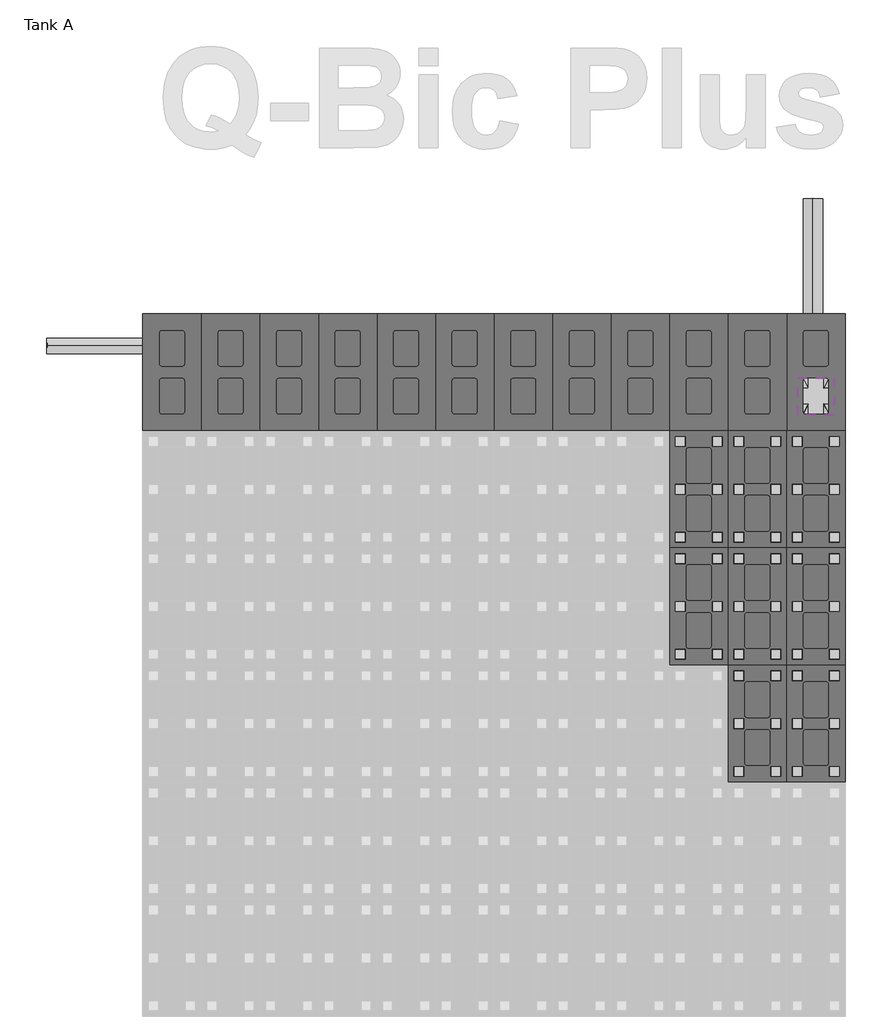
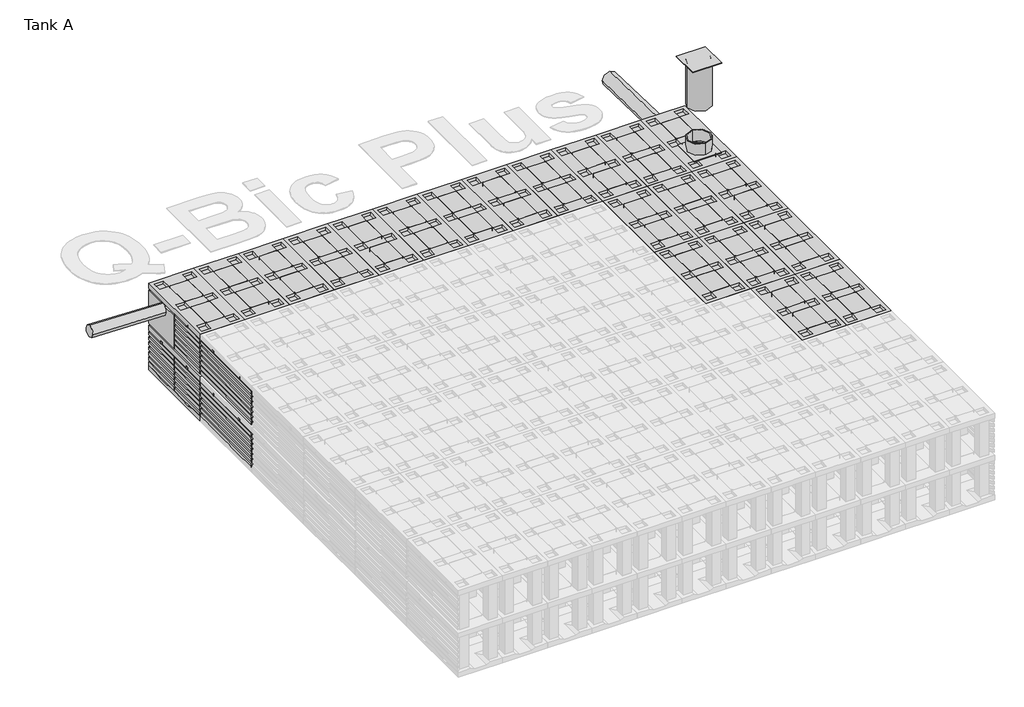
# One storey, part 4 of 6: 89 unitary equipment elements, 2 pipe fittings, 2 pipe segments.
"""IFC4 building model written with IfcOpenShell, lengths in millimetres."""

from ifc_helpers import new_model, si_unit, point, frame, frame_2d, origin, place, context, project, spatial, circle_curve, trimmed, segment, composite_curve, outline, extrude, transform, mapped, element, save
from components import sx315_telescopic_cover_with_d400_grating_073f188a, std_29941be0, closed_bottom_plate_7d425a97, std_f31acf44, std_0451be0c, std_7f29cd48, std_fc4b4af1, std_2a40640f, std_d7962c01

model = new_model("IFC4")

# Units and contexts
model_context = context("Model", 3, world=origin())
ifc_project = project(units=[si_unit("LENGTHUNIT", "METRE", prefix="MILLI")], contexts=[model_context])

# Site, building, storey
site = spatial("IfcSite", under=ifc_project)
building = spatial("IfcBuilding", under=site)
storey = spatial("IfcBuildingStorey", under=building, Name="Tank A", Elevation=-2300.0)

# Pipe fittings
placement = place(None, origin())
sx315_telescopic_cover_with_d400_grating_shape = sx315_telescopic_cover_with_d400_grating_073f188a(model_context)
element("IfcPipeFitting", 1, ObjectType="Z_PIF_UN_Q-Bic_Plus_Telescopic_Square_Cover_Wavin_(nested) : SX315 Telescopic cover with D400 Grating", at=placement, inside=storey, context=model_context, shape_type="MappedRepresentation", body=[
    mapped(sx315_telescopic_cover_with_d400_grating_shape, transform((9386.051096, 9115.7779398, 200.0), x_axis=(-1.0000000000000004, 0.0, 0.0), y_axis=(0.0, -1.0, 0.0), z_axis=(0.0, 0.0, 1.0000000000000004))),
])
std_shape = std_29941be0(model_context)
element("IfcPipeFitting", 2, ObjectType="Z_ME_UN_Q-Bic_Plus_Spigot_Plate_315_Wavin_(nested) : std", at=placement, inside=storey, context=model_context, shape_type="MappedRepresentation", body=[
    mapped(std_shape, transform((9566.051096, 9115.7779398, -1070.0), x_axis=(0.0, -1.0, 0.0), y_axis=(0.0, 0.0, 1.0000000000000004), z_axis=(-1.0000000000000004, 0.0, 0.0))),
])

# Pipe segments
element("IfcPipeSegment", 3, ObjectType="Generic PVC", at=placement, inside=storey, context=model_context, shape_type="SweptSolid", body=[
    extrude(outline(composite_curve([segment(trimmed(circle_curve(frame_2d((0.0, -100.0)), 100.0), [point((100.0, -100.0))], [point((0.0, -199.9999999))], False, "CARTESIAN"), True, "CONTINUOUS"), segment(trimmed(circle_curve(frame_2d((0.0, -100.0)), 100.0), [point((0.0, -199.9999999))], [point((-100.0, -100.0))], False, "CARTESIAN"), True, "CONTINUOUS"), segment(trimmed(circle_curve(frame_2d((0.0, -100.0)), 100.0), [point((-100.0, -100.0))], [point((0.0, 0.0))], False, "CARTESIAN"), True, "CONTINUOUS"), segment(trimmed(circle_curve(frame_2d((0.0, -100.0)), 100.0), [point((0.0, 0.0))], [point((100.0, -100.0))], False, "CARTESIAN"), True, "CONTINUOUS")], self_intersect=False)), frame((9356.051096, 11141.1754725, -1184.0272346), z_axis=(0.0, -0.9997276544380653, 0.023337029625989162), x_axis=(1.0, 0.0, 0.0)), (0.0, 0.0, 1.0), 1178.3847576),
])
element("IfcPipeSegment", 4, ObjectType="Generic PVC", at=placement, inside=storey, context=model_context, shape_type="SweptSolid", body=[
    extrude(outline(composite_curve([segment(trimmed(circle_curve(frame_2d((0.0, 80.0)), 80.0), [point((-0.1494468, 159.9998604))], [point((79.9998604, 80.1494468))], False, "CARTESIAN"), True, "CONTINUOUS"), segment(trimmed(circle_curve(frame_2d((0.0, 80.0)), 80.0), [point((79.9998604, 80.1494468))], [point((0.1494468, 0.0001395))], False, "CARTESIAN"), True, "CONTINUOUS"), segment(trimmed(circle_curve(frame_2d((0.0, 80.0)), 80.0), [point((0.1494468, 0.0001395))], [point((-79.9998605, 79.8505531))], False, "CARTESIAN"), True, "CONTINUOUS"), segment(trimmed(circle_curve(frame_2d((0.0, 80.0)), 80.0), [point((-79.9998605, 79.8505531))], [point((-0.1494468, 159.9998604))], False, "CARTESIAN"), True, "CONTINUOUS")], self_intersect=False)), frame((2486.051096, 9550.7780793, -1236.6493773), z_axis=(-0.9995352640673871, -5.691967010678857e-05, 0.030483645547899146), x_axis=(0.03048369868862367, -0.0018663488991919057, 0.9995335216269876)), (0.0, 0.0, 1.0), 984.1342615),
])

# Unitary equipment
closed_bottom_plate_shape = closed_bottom_plate_7d425a97(model_context)
element("IfcUnitaryEquipment", 5, ObjectType="Z_ME_UN_Q-Bic_Plus_Bottom_Plate_Wavin_(nested) : Open bottom plate", at=placement, inside=storey, context=model_context, shape_type="MappedRepresentation", body=[
    mapped(closed_bottom_plate_shape, transform((2486.051096, 9960.7779398, -2230.0), x_axis=(0.0, -1.0000000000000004, 0.0), y_axis=(1.0000000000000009, 0.0, 0.0), z_axis=(0.0, 0.0, 1.0000000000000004))),
])
element("IfcUnitaryEquipment", 6, ObjectType="Z_ME_UN_Q-Bic_Plus_Bottom_Plate_Wavin_(nested) : Open bottom plate", at=placement, inside=storey, context=model_context, shape_type="MappedRepresentation", body=[
    mapped(closed_bottom_plate_shape, transform((9686.051096, 5160.7779398, -2230.0), x_axis=(0.0, 1.0, 0.0), y_axis=(-1.0000000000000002, 0.0, 0.0), z_axis=(0.0, 0.0, 1.0000000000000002))),
])
element("IfcUnitaryEquipment", 7, ObjectType="Z_ME_UN_Q-Bic_Plus_Bottom_Plate_Wavin_(nested) : Open bottom plate", at=placement, inside=storey, context=model_context, shape_type="MappedRepresentation", body=[
    mapped(closed_bottom_plate_shape, transform((9686.051096, 6360.7779398, -2230.0), x_axis=(0.0, 1.0, 0.0), y_axis=(-1.0000000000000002, 0.0, 0.0), z_axis=(0.0, 0.0, 1.0000000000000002))),
])
element("IfcUnitaryEquipment", 8, ObjectType="Z_ME_UN_Q-Bic_Plus_Bottom_Plate_Wavin_(nested) : Open bottom plate", at=placement, inside=storey, context=model_context, shape_type="MappedRepresentation", body=[
    mapped(closed_bottom_plate_shape, transform((9686.051096, 7560.7779398, -2230.0), x_axis=(0.0, 1.0, 0.0), y_axis=(-1.0000000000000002, 0.0, 0.0), z_axis=(0.0, 0.0, 1.0000000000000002))),
])
element("IfcUnitaryEquipment", 9, ObjectType="Z_ME_UN_Q-Bic_Plus_Bottom_Plate_Wavin_(nested) : Open bottom plate", at=placement, inside=storey, context=model_context, shape_type="MappedRepresentation", body=[
    mapped(closed_bottom_plate_shape, transform((9086.051096, 5160.7779398, -2230.0), x_axis=(0.0, 1.0, 0.0), y_axis=(-1.0000000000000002, 0.0, 0.0), z_axis=(0.0, 0.0, 1.0000000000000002))),
])
element("IfcUnitaryEquipment", 10, ObjectType="Z_ME_UN_Q-Bic_Plus_Bottom_Plate_Wavin_(nested) : Open bottom plate", at=placement, inside=storey, context=model_context, shape_type="MappedRepresentation", body=[
    mapped(closed_bottom_plate_shape, transform((9086.051096, 6360.7779398, -2230.0), x_axis=(0.0, 1.0, 0.0), y_axis=(-1.0000000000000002, 0.0, 0.0), z_axis=(0.0, 0.0, 1.0000000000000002))),
])
element("IfcUnitaryEquipment", 11, ObjectType="Z_ME_UN_Q-Bic_Plus_Bottom_Plate_Wavin_(nested) : Open bottom plate", at=placement, inside=storey, context=model_context, shape_type="MappedRepresentation", body=[
    mapped(closed_bottom_plate_shape, transform((9086.051096, 7560.7779398, -2230.0), x_axis=(0.0, 1.0, 0.0), y_axis=(-1.0000000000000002, 0.0, 0.0), z_axis=(0.0, 0.0, 1.0000000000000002))),
])
element("IfcUnitaryEquipment", 12, ObjectType="Z_ME_UN_Q-Bic_Plus_Bottom_Plate_Wavin_(nested) : Open bottom plate", at=placement, inside=storey, context=model_context, shape_type="MappedRepresentation", body=[
    mapped(closed_bottom_plate_shape, transform((8486.051096, 5160.7779398, -2230.0), x_axis=(0.0, 1.0, 0.0), y_axis=(-1.0000000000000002, 0.0, 0.0), z_axis=(0.0, 0.0, 1.0000000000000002))),
])
element("IfcUnitaryEquipment", 13, ObjectType="Z_ME_UN_Q-Bic_Plus_Bottom_Plate_Wavin_(nested) : Open bottom plate", at=placement, inside=storey, context=model_context, shape_type="MappedRepresentation", body=[
    mapped(closed_bottom_plate_shape, transform((8486.051096, 6360.7779398, -2230.0), x_axis=(0.0, 1.0, 0.0), y_axis=(-1.0000000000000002, 0.0, 0.0), z_axis=(0.0, 0.0, 1.0000000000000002))),
])
element("IfcUnitaryEquipment", 14, ObjectType="Z_ME_UN_Q-Bic_Plus_Bottom_Plate_Wavin_(nested) : Open bottom plate", at=placement, inside=storey, context=model_context, shape_type="MappedRepresentation", body=[
    mapped(closed_bottom_plate_shape, transform((8486.051096, 7560.7779398, -2230.0), x_axis=(0.0, 1.0, 0.0), y_axis=(-1.0000000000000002, 0.0, 0.0), z_axis=(0.0, 0.0, 1.0000000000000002))),
])
element("IfcUnitaryEquipment", 15, ObjectType="Z_ME_UN_Q-Bic_Plus_Bottom_Plate_Wavin_(nested) : Open bottom plate", at=placement, inside=storey, context=model_context, shape_type="MappedRepresentation", body=[
    mapped(closed_bottom_plate_shape, transform((3086.051096, 9960.7779398, -2230.0), x_axis=(0.0, -1.0, 0.0), y_axis=(1.0000000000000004, 0.0, 0.0), z_axis=(0.0, 0.0, 1.0000000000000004))),
])
element("IfcUnitaryEquipment", 16, ObjectType="Z_ME_UN_Q-Bic_Plus_Bottom_Plate_Wavin_(nested) : Open bottom plate", at=placement, inside=storey, context=model_context, shape_type="MappedRepresentation", body=[
    mapped(closed_bottom_plate_shape, transform((3686.051096, 9960.7779398, -2230.0), x_axis=(0.0, -1.0, 0.0), y_axis=(1.0000000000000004, 0.0, 0.0), z_axis=(0.0, 0.0, 1.0000000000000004))),
])
element("IfcUnitaryEquipment", 17, ObjectType="Z_ME_UN_Q-Bic_Plus_Bottom_Plate_Wavin_(nested) : Open bottom plate", at=placement, inside=storey, context=model_context, shape_type="MappedRepresentation", body=[
    mapped(closed_bottom_plate_shape, transform((4286.051096, 9960.7779398, -2230.0), x_axis=(0.0, -1.0, 0.0), y_axis=(1.0000000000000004, 0.0, 0.0), z_axis=(0.0, 0.0, 1.0000000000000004))),
])
element("IfcUnitaryEquipment", 18, ObjectType="Z_ME_UN_Q-Bic_Plus_Bottom_Plate_Wavin_(nested) : Open bottom plate", at=placement, inside=storey, context=model_context, shape_type="MappedRepresentation", body=[
    mapped(closed_bottom_plate_shape, transform((4886.051096, 9960.7779398, -2230.0), x_axis=(0.0, -1.0, 0.0), y_axis=(1.0000000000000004, 0.0, 0.0), z_axis=(0.0, 0.0, 1.0000000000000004))),
])
element("IfcUnitaryEquipment", 19, ObjectType="Z_ME_UN_Q-Bic_Plus_Bottom_Plate_Wavin_(nested) : Open bottom plate", at=placement, inside=storey, context=model_context, shape_type="MappedRepresentation", body=[
    mapped(closed_bottom_plate_shape, transform((5486.051096, 9960.7779398, -2230.0), x_axis=(0.0, -1.0, 0.0), y_axis=(1.0000000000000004, 0.0, 0.0), z_axis=(0.0, 0.0, 1.0000000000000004))),
])
element("IfcUnitaryEquipment", 20, ObjectType="Z_ME_UN_Q-Bic_Plus_Bottom_Plate_Wavin_(nested) : Open bottom plate", at=placement, inside=storey, context=model_context, shape_type="MappedRepresentation", body=[
    mapped(closed_bottom_plate_shape, transform((6086.051096, 9960.7779398, -2230.0), x_axis=(0.0, -1.0, 0.0), y_axis=(1.0000000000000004, 0.0, 0.0), z_axis=(0.0, 0.0, 1.0000000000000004))),
])
element("IfcUnitaryEquipment", 21, ObjectType="Z_ME_UN_Q-Bic_Plus_Bottom_Plate_Wavin_(nested) : Open bottom plate", at=placement, inside=storey, context=model_context, shape_type="MappedRepresentation", body=[
    mapped(closed_bottom_plate_shape, transform((6686.051096, 9960.7779398, -2230.0), x_axis=(0.0, -1.0, 0.0), y_axis=(1.0000000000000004, 0.0, 0.0), z_axis=(0.0, 0.0, 1.0000000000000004))),
])
element("IfcUnitaryEquipment", 22, ObjectType="Z_ME_UN_Q-Bic_Plus_Bottom_Plate_Wavin_(nested) : Open bottom plate", at=placement, inside=storey, context=model_context, shape_type="MappedRepresentation", body=[
    mapped(closed_bottom_plate_shape, transform((7286.051096, 9960.7779398, -2230.0), x_axis=(0.0, -1.0, 0.0), y_axis=(1.0000000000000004, 0.0, 0.0), z_axis=(0.0, 0.0, 1.0000000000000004))),
])
element("IfcUnitaryEquipment", 23, ObjectType="Z_ME_UN_Q-Bic_Plus_Bottom_Plate_Wavin_(nested) : Open bottom plate", at=placement, inside=storey, context=model_context, shape_type="MappedRepresentation", body=[
    mapped(closed_bottom_plate_shape, transform((7886.051096, 9960.7779398, -2230.0), x_axis=(0.0, -1.0, 0.0), y_axis=(1.0000000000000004, 0.0, 0.0), z_axis=(0.0, 0.0, 1.0000000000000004))),
])
element("IfcUnitaryEquipment", 24, ObjectType="Z_ME_UN_Q-Bic_Plus_Bottom_Plate_Wavin_(nested) : Open bottom plate", at=placement, inside=storey, context=model_context, shape_type="MappedRepresentation", body=[
    mapped(closed_bottom_plate_shape, transform((8486.051096, 9960.7779398, -2230.0), x_axis=(0.0, -1.0, 0.0), y_axis=(1.0000000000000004, 0.0, 0.0), z_axis=(0.0, 0.0, 1.0000000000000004))),
])
element("IfcUnitaryEquipment", 25, ObjectType="Z_ME_UN_Q-Bic_Plus_Bottom_Plate_Wavin_(nested) : Open bottom plate", at=placement, inside=storey, context=model_context, shape_type="MappedRepresentation", body=[
    mapped(closed_bottom_plate_shape, transform((9086.051096, 9960.7779398, -2230.0), x_axis=(0.0, -1.0, 0.0), y_axis=(1.0000000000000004, 0.0, 0.0), z_axis=(0.0, 0.0, 1.0000000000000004))),
])
std_2_shape = std_f31acf44(model_context)
element("IfcUnitaryEquipment", 26, ObjectType="Z_ME_UN_Q-Bic_Plus_Lateral_Side_Plate_Wavin_(nested) : std", at=placement, inside=storey, context=model_context, shape_type="MappedRepresentation", body=[
    mapped(std_2_shape, transform((6086.051096, 9960.7779398, -2330.0), x_axis=(-1.0000000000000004, 0.0, 0.0), y_axis=(0.0, -1.0000000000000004, 0.0), z_axis=(0.0, 0.0, 1.0))),
])
element("IfcUnitaryEquipment", 27, ObjectType="Z_ME_UN_Q-Bic_Plus_Lateral_Side_Plate_Wavin_(nested) : std", at=placement, inside=storey, context=model_context, shape_type="MappedRepresentation", body=[
    mapped(std_2_shape, transform((6086.051096, 9960.7779398, -1730.0), x_axis=(-1.0000000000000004, 0.0, 0.0), y_axis=(0.0, -1.0000000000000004, 0.0), z_axis=(0.0, 0.0, 1.0))),
])
element("IfcUnitaryEquipment", 28, ObjectType="Z_ME_UN_Q-Bic_Plus_Lateral_Side_Plate_Wavin_(nested) : std", at=placement, inside=storey, context=model_context, shape_type="MappedRepresentation", body=[
    mapped(std_2_shape, transform((7286.051096, 9960.7779398, -2330.0), x_axis=(-1.0000000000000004, 0.0, 0.0), y_axis=(0.0, -1.0000000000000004, 0.0), z_axis=(0.0, 0.0, 1.0))),
])
element("IfcUnitaryEquipment", 29, ObjectType="Z_ME_UN_Q-Bic_Plus_Lateral_Side_Plate_Wavin_(nested) : std", at=placement, inside=storey, context=model_context, shape_type="MappedRepresentation", body=[
    mapped(std_2_shape, transform((7286.051096, 9960.7779398, -1730.0), x_axis=(-1.0000000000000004, 0.0, 0.0), y_axis=(0.0, -1.0000000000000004, 0.0), z_axis=(0.0, 0.0, 1.0))),
])
element("IfcUnitaryEquipment", 30, ObjectType="Z_ME_UN_Q-Bic_Plus_Lateral_Side_Plate_Wavin_(nested) : std", at=placement, inside=storey, context=model_context, shape_type="MappedRepresentation", body=[
    mapped(std_2_shape, transform((8486.051096, 9960.7779398, -2330.0), x_axis=(-1.0000000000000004, 0.0, 0.0), y_axis=(0.0, -1.0000000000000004, 0.0), z_axis=(0.0, 0.0, 1.0))),
])
element("IfcUnitaryEquipment", 31, ObjectType="Z_ME_UN_Q-Bic_Plus_Lateral_Side_Plate_Wavin_(nested) : std", at=placement, inside=storey, context=model_context, shape_type="MappedRepresentation", body=[
    mapped(std_2_shape, transform((8486.051096, 9960.7779398, -1730.0), x_axis=(-1.0000000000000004, 0.0, 0.0), y_axis=(0.0, -1.0000000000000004, 0.0), z_axis=(0.0, 0.0, 1.0))),
])
element("IfcUnitaryEquipment", 32, ObjectType="Z_ME_UN_Q-Bic_Plus_Lateral_Side_Plate_Wavin_(nested) : std", at=placement, inside=storey, context=model_context, shape_type="MappedRepresentation", body=[
    mapped(std_2_shape, transform((9686.051096, 6360.7779398, -2330.0), x_axis=(0.0, 1.0000000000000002, 0.0), y_axis=(-1.0000000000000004, 0.0, 0.0), z_axis=(0.0, 0.0, 1.0000000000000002))),
])
element("IfcUnitaryEquipment", 33, ObjectType="Z_ME_UN_Q-Bic_Plus_Lateral_Side_Plate_Wavin_(nested) : std", at=placement, inside=storey, context=model_context, shape_type="MappedRepresentation", body=[
    mapped(std_2_shape, transform((9686.051096, 6360.7779398, -1730.0), x_axis=(0.0, 1.0000000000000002, 0.0), y_axis=(-1.0000000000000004, 0.0, 0.0), z_axis=(0.0, 0.0, 1.0000000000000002))),
])
element("IfcUnitaryEquipment", 34, ObjectType="Z_ME_UN_Q-Bic_Plus_Lateral_Side_Plate_Wavin_(nested) : std", at=placement, inside=storey, context=model_context, shape_type="MappedRepresentation", body=[
    mapped(std_2_shape, transform((9686.051096, 5160.7779398, -2330.0), x_axis=(0.0, 1.0000000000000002, 0.0), y_axis=(-1.0000000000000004, 0.0, 0.0), z_axis=(0.0, 0.0, 1.0000000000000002))),
])
element("IfcUnitaryEquipment", 35, ObjectType="Z_ME_UN_Q-Bic_Plus_Lateral_Side_Plate_Wavin_(nested) : std", at=placement, inside=storey, context=model_context, shape_type="MappedRepresentation", body=[
    mapped(std_2_shape, transform((9686.051096, 5160.7779398, -1730.0), x_axis=(0.0, 1.0000000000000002, 0.0), y_axis=(-1.0000000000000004, 0.0, 0.0), z_axis=(0.0, 0.0, 1.0000000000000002))),
])
element("IfcUnitaryEquipment", 36, ObjectType="Z_ME_UN_Q-Bic_Plus_Lateral_Side_Plate_Wavin_(nested) : std", at=placement, inside=storey, context=model_context, shape_type="MappedRepresentation", body=[
    mapped(std_2_shape, transform((2486.051096, 8760.7779398, -2330.0), x_axis=(0.0, -1.0000000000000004, 0.0), y_axis=(1.0000000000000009, 0.0, 0.0), z_axis=(0.0, 0.0, 1.0000000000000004))),
])
element("IfcUnitaryEquipment", 37, ObjectType="Z_ME_UN_Q-Bic_Plus_Lateral_Side_Plate_Wavin_(nested) : std", at=placement, inside=storey, context=model_context, shape_type="MappedRepresentation", body=[
    mapped(std_2_shape, transform((2486.051096, 8760.7779398, -1730.0), x_axis=(0.0, -1.0000000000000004, 0.0), y_axis=(1.0000000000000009, 0.0, 0.0), z_axis=(0.0, 0.0, 1.0000000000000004))),
])
element("IfcUnitaryEquipment", 38, ObjectType="Z_ME_UN_Q-Bic_Plus_Lateral_Side_Plate_Wavin_(nested) : std", at=placement, inside=storey, context=model_context, shape_type="MappedRepresentation", body=[
    mapped(std_2_shape, transform((9686.051096, 7560.7779398, -2330.0), x_axis=(0.0, 1.0000000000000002, 0.0), y_axis=(-1.0000000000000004, 0.0, 0.0), z_axis=(0.0, 0.0, 1.0000000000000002))),
])
element("IfcUnitaryEquipment", 39, ObjectType="Z_ME_UN_Q-Bic_Plus_Lateral_Side_Plate_Wavin_(nested) : std", at=placement, inside=storey, context=model_context, shape_type="MappedRepresentation", body=[
    mapped(std_2_shape, transform((9686.051096, 7560.7779398, -1730.0), x_axis=(0.0, 1.0000000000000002, 0.0), y_axis=(-1.0000000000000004, 0.0, 0.0), z_axis=(0.0, 0.0, 1.0000000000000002))),
])
element("IfcUnitaryEquipment", 40, ObjectType="Z_ME_UN_Q-Bic_Plus_Lateral_Side_Plate_Wavin_(nested) : std", at=placement, inside=storey, context=model_context, shape_type="MappedRepresentation", body=[
    mapped(std_2_shape, transform((9686.051096, 8760.7779398, -2330.0), x_axis=(0.0, 1.0000000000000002, 0.0), y_axis=(-1.0000000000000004, 0.0, 0.0), z_axis=(0.0, 0.0, 1.0000000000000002))),
])
element("IfcUnitaryEquipment", 41, ObjectType="Z_ME_UN_Q-Bic_Plus_Lateral_Side_Plate_Wavin_(nested) : std", at=placement, inside=storey, context=model_context, shape_type="MappedRepresentation", body=[
    mapped(std_2_shape, transform((9686.051096, 8760.7779398, -1730.0), x_axis=(0.0, 1.0000000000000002, 0.0), y_axis=(-1.0000000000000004, 0.0, 0.0), z_axis=(0.0, 0.0, 1.0000000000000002))),
])
element("IfcUnitaryEquipment", 42, ObjectType="Z_ME_UN_Q-Bic_Plus_Lateral_Side_Plate_Wavin_(nested) : std", at=placement, inside=storey, context=model_context, shape_type="MappedRepresentation", body=[
    mapped(std_2_shape, transform((4886.051096, 9960.7779398, -2330.0), x_axis=(-1.0000000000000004, 0.0, 0.0), y_axis=(0.0, -1.0000000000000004, 0.0), z_axis=(0.0, 0.0, 1.0))),
])
element("IfcUnitaryEquipment", 43, ObjectType="Z_ME_UN_Q-Bic_Plus_Lateral_Side_Plate_Wavin_(nested) : std", at=placement, inside=storey, context=model_context, shape_type="MappedRepresentation", body=[
    mapped(std_2_shape, transform((4886.051096, 9960.7779398, -1730.0), x_axis=(-1.0000000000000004, 0.0, 0.0), y_axis=(0.0, -1.0000000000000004, 0.0), z_axis=(0.0, 0.0, 1.0))),
])
element("IfcUnitaryEquipment", 44, ObjectType="Z_ME_UN_Q-Bic_Plus_Lateral_Side_Plate_Wavin_(nested) : std", at=placement, inside=storey, context=model_context, shape_type="MappedRepresentation", body=[
    mapped(std_2_shape, transform((3686.051096, 9960.7779398, -2330.0), x_axis=(-1.0000000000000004, 0.0, 0.0), y_axis=(0.0, -1.0000000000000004, 0.0), z_axis=(0.0, 0.0, 1.0))),
])
element("IfcUnitaryEquipment", 45, ObjectType="Z_ME_UN_Q-Bic_Plus_Lateral_Side_Plate_Wavin_(nested) : std", at=placement, inside=storey, context=model_context, shape_type="MappedRepresentation", body=[
    mapped(std_2_shape, transform((3686.051096, 9960.7779398, -1730.0), x_axis=(-1.0000000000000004, 0.0, 0.0), y_axis=(0.0, -1.0000000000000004, 0.0), z_axis=(0.0, 0.0, 1.0))),
])
std_3_shape = std_0451be0c(model_context)
element("IfcUnitaryEquipment", 46, ObjectType="Z_ME_UN_Q-Bic_Plus_Lateral_Side_Plate_Wavin_(nested) : std", at=placement, inside=storey, context=model_context, shape_type="MappedRepresentation", body=[
    mapped(std_3_shape, transform((9686.051096, 9960.7779398, -2330.0), x_axis=(-1.0000000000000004, 0.0, 0.0), y_axis=(0.0, -1.0000000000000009, 0.0), z_axis=(0.0, 0.0, 1.0000000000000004))),
])
element("IfcUnitaryEquipment", 47, ObjectType="Z_ME_UN_Q-Bic_Plus_Lateral_Side_Plate_Wavin_(nested) : std", at=placement, inside=storey, context=model_context, shape_type="MappedRepresentation", body=[
    mapped(std_3_shape, transform((2486.051096, 9960.7779398, -2330.0), x_axis=(0.0, -1.0000000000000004, 0.0), y_axis=(1.0000000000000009, 0.0, 0.0), z_axis=(0.0, 0.0, 1.0000000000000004))),
])
element("IfcUnitaryEquipment", 48, ObjectType="Z_ME_UN_Q-Bic_Plus_Lateral_Side_Plate_Wavin_(nested) : std", at=placement, inside=storey, context=model_context, shape_type="MappedRepresentation", body=[
    mapped(std_3_shape, transform((2486.051096, 9368.7779398, -1730.0), x_axis=(0.0, -1.0000000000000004, 0.0), y_axis=(1.0000000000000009, 0.0, 0.0), z_axis=(0.0, 0.0, 1.0000000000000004))),
])
element("IfcUnitaryEquipment", 49, ObjectType="Z_ME_UN_Q-Bic_Plus_Lateral_Side_Plate_Wavin_(nested) : std", at=placement, inside=storey, context=model_context, shape_type="MappedRepresentation", body=[
    mapped(std_3_shape, transform((2486.051096, 9368.7779398, -2330.0), x_axis=(0.0, -1.0000000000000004, 0.0), y_axis=(1.0000000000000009, 0.0, 0.0), z_axis=(0.0, 0.0, 1.0000000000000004))),
])
element("IfcUnitaryEquipment", 50, ObjectType="Z_ME_UN_Q-Bic_Plus_Lateral_Side_Plate_Wavin_(nested) : std", at=placement, inside=storey, context=model_context, shape_type="MappedRepresentation", body=[
    mapped(std_3_shape, transform((9094.051096, 9960.7779398, -1730.0), x_axis=(-1.0000000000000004, 0.0, 0.0), y_axis=(0.0, -1.0000000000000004, 0.0), z_axis=(0.0, 0.0, 1.0))),
])
element("IfcUnitaryEquipment", 51, ObjectType="Z_ME_UN_Q-Bic_Plus_Lateral_Side_Plate_Wavin_(nested) : std", at=placement, inside=storey, context=model_context, shape_type="MappedRepresentation", body=[
    mapped(std_3_shape, transform((9094.051096, 9960.7779398, -2330.0), x_axis=(-1.0000000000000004, 0.0, 0.0), y_axis=(0.0, -1.0000000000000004, 0.0), z_axis=(0.0, 0.0, 1.0))),
])
std_4_shape = std_7f29cd48(model_context)
element("IfcUnitaryEquipment", 52, ObjectType="Z_ME_UN_Q-Bic Plus_Infiltration_Unit_Wavin_(nested) : std", at=placement, inside=storey, context=model_context, shape_type="MappedRepresentation", body=[
    mapped(std_4_shape, transform((9086.051096, 9960.7779398, -1670.0), x_axis=(0.0, -1.0, 0.0), y_axis=(1.0000000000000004, 0.0, 0.0), z_axis=(0.0, 0.0, 1.0000000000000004))),
])
element("IfcUnitaryEquipment", 53, ObjectType="Z_ME_UN_Q-Bic Plus_Infiltration_Unit_Wavin_(nested) : std", at=placement, inside=storey, context=model_context, shape_type="MappedRepresentation", body=[
    mapped(std_4_shape, transform((9086.051096, 9960.7779398, -2270.0), x_axis=(0.0, -1.0, 0.0), y_axis=(1.0000000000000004, 0.0, 0.0), z_axis=(0.0, 0.0, 1.0000000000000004))),
])
std_5_shape = std_fc4b4af1(model_context)
element("IfcUnitaryEquipment", 54, ObjectType="Z_ME_UN_Q-Bic_Plus_Connection_Plate_Wavin_(nested) : std", at=placement, inside=storey, context=model_context, shape_type="MappedRepresentation", body=[
    mapped(std_5_shape, transform((9686.051096, 9960.7779398, -1730.0), x_axis=(-1.0000000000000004, 0.0, 0.0), y_axis=(0.0, -1.0000000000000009, 0.0), z_axis=(0.0, 0.0, 1.0000000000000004))),
])
std_6_shape = std_2a40640f(model_context)
element("IfcUnitaryEquipment", 55, ObjectType="Z_ME_UN_Q-Bic_Plus_Connection_Plate_Wavin_(nested) : std", at=placement, inside=storey, context=model_context, shape_type="MappedRepresentation", body=[
    mapped(std_6_shape, transform((2486.051096, 9960.7779398, -1730.0), x_axis=(0.0, -1.0000000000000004, 0.0), y_axis=(1.0000000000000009, 0.0, 0.0), z_axis=(0.0, 0.0, 1.0000000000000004))),
])
std_7_shape = std_d7962c01(model_context)
element("IfcUnitaryEquipment", 56, ObjectType="Z_ME_UN_Q-Bic Plus_Infiltration_Unit_Wavin_(nested) : std", at=placement, inside=storey, context=model_context, shape_type="MappedRepresentation", body=[
    mapped(std_7_shape, transform((2486.051096, 9960.7779398, -1670.0), x_axis=(0.0, -1.0000000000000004, 0.0), y_axis=(1.0000000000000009, 0.0, 0.0), z_axis=(0.0, 0.0, 1.0000000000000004))),
])
element("IfcUnitaryEquipment", 57, ObjectType="Z_ME_UN_Q-Bic Plus_Infiltration_Unit_Wavin_(nested) : std", at=placement, inside=storey, context=model_context, shape_type="MappedRepresentation", body=[
    mapped(std_7_shape, transform((2486.051096, 9960.7779398, -2270.0), x_axis=(0.0, -1.0000000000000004, 0.0), y_axis=(1.0000000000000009, 0.0, 0.0), z_axis=(0.0, 0.0, 1.0000000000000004))),
])
element("IfcUnitaryEquipment", 58, ObjectType="Z_ME_UN_Q-Bic Plus_Infiltration_Unit_Wavin_(nested) : std", at=placement, inside=storey, context=model_context, shape_type="MappedRepresentation", body=[
    mapped(std_7_shape, transform((9686.051096, 5160.7779398, -1670.0), x_axis=(0.0, 1.0, 0.0), y_axis=(-1.0000000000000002, 0.0, 0.0), z_axis=(0.0, 0.0, 1.0000000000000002))),
])
element("IfcUnitaryEquipment", 59, ObjectType="Z_ME_UN_Q-Bic Plus_Infiltration_Unit_Wavin_(nested) : std", at=placement, inside=storey, context=model_context, shape_type="MappedRepresentation", body=[
    mapped(std_7_shape, transform((9686.051096, 5160.7779398, -2270.0), x_axis=(0.0, 1.0, 0.0), y_axis=(-1.0000000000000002, 0.0, 0.0), z_axis=(0.0, 0.0, 1.0000000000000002))),
])
element("IfcUnitaryEquipment", 60, ObjectType="Z_ME_UN_Q-Bic Plus_Infiltration_Unit_Wavin_(nested) : std", at=placement, inside=storey, context=model_context, shape_type="MappedRepresentation", body=[
    mapped(std_7_shape, transform((9686.051096, 6360.7779398, -1670.0), x_axis=(0.0, 1.0, 0.0), y_axis=(-1.0000000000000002, 0.0, 0.0), z_axis=(0.0, 0.0, 1.0000000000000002))),
])
element("IfcUnitaryEquipment", 61, ObjectType="Z_ME_UN_Q-Bic Plus_Infiltration_Unit_Wavin_(nested) : std", at=placement, inside=storey, context=model_context, shape_type="MappedRepresentation", body=[
    mapped(std_7_shape, transform((9686.051096, 6360.7779398, -2270.0), x_axis=(0.0, 1.0, 0.0), y_axis=(-1.0000000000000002, 0.0, 0.0), z_axis=(0.0, 0.0, 1.0000000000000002))),
])
element("IfcUnitaryEquipment", 62, ObjectType="Z_ME_UN_Q-Bic Plus_Infiltration_Unit_Wavin_(nested) : std", at=placement, inside=storey, context=model_context, shape_type="MappedRepresentation", body=[
    mapped(std_7_shape, transform((9686.051096, 7560.7779398, -1670.0), x_axis=(0.0, 1.0, 0.0), y_axis=(-1.0000000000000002, 0.0, 0.0), z_axis=(0.0, 0.0, 1.0000000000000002))),
])
element("IfcUnitaryEquipment", 63, ObjectType="Z_ME_UN_Q-Bic Plus_Infiltration_Unit_Wavin_(nested) : std", at=placement, inside=storey, context=model_context, shape_type="MappedRepresentation", body=[
    mapped(std_7_shape, transform((9686.051096, 7560.7779398, -2270.0), x_axis=(0.0, 1.0, 0.0), y_axis=(-1.0000000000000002, 0.0, 0.0), z_axis=(0.0, 0.0, 1.0000000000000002))),
])
element("IfcUnitaryEquipment", 64, ObjectType="Z_ME_UN_Q-Bic Plus_Infiltration_Unit_Wavin_(nested) : std", at=placement, inside=storey, context=model_context, shape_type="MappedRepresentation", body=[
    mapped(std_7_shape, transform((9086.051096, 5160.7779398, -1670.0), x_axis=(0.0, 1.0, 0.0), y_axis=(-1.0000000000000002, 0.0, 0.0), z_axis=(0.0, 0.0, 1.0000000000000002))),
])
element("IfcUnitaryEquipment", 65, ObjectType="Z_ME_UN_Q-Bic Plus_Infiltration_Unit_Wavin_(nested) : std", at=placement, inside=storey, context=model_context, shape_type="MappedRepresentation", body=[
    mapped(std_7_shape, transform((9086.051096, 5160.7779398, -2270.0), x_axis=(0.0, 1.0, 0.0), y_axis=(-1.0000000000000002, 0.0, 0.0), z_axis=(0.0, 0.0, 1.0000000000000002))),
])
element("IfcUnitaryEquipment", 66, ObjectType="Z_ME_UN_Q-Bic Plus_Infiltration_Unit_Wavin_(nested) : std", at=placement, inside=storey, context=model_context, shape_type="MappedRepresentation", body=[
    mapped(std_7_shape, transform((9086.051096, 6360.7779398, -1670.0), x_axis=(0.0, 1.0, 0.0), y_axis=(-1.0000000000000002, 0.0, 0.0), z_axis=(0.0, 0.0, 1.0000000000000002))),
])
element("IfcUnitaryEquipment", 67, ObjectType="Z_ME_UN_Q-Bic Plus_Infiltration_Unit_Wavin_(nested) : std", at=placement, inside=storey, context=model_context, shape_type="MappedRepresentation", body=[
    mapped(std_7_shape, transform((9086.051096, 6360.7779398, -2270.0), x_axis=(0.0, 1.0, 0.0), y_axis=(-1.0000000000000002, 0.0, 0.0), z_axis=(0.0, 0.0, 1.0000000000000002))),
])
element("IfcUnitaryEquipment", 68, ObjectType="Z_ME_UN_Q-Bic Plus_Infiltration_Unit_Wavin_(nested) : std", at=placement, inside=storey, context=model_context, shape_type="MappedRepresentation", body=[
    mapped(std_7_shape, transform((9086.051096, 7560.7779398, -1670.0), x_axis=(0.0, 1.0, 0.0), y_axis=(-1.0000000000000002, 0.0, 0.0), z_axis=(0.0, 0.0, 1.0000000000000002))),
])
element("IfcUnitaryEquipment", 69, ObjectType="Z_ME_UN_Q-Bic Plus_Infiltration_Unit_Wavin_(nested) : std", at=placement, inside=storey, context=model_context, shape_type="MappedRepresentation", body=[
    mapped(std_7_shape, transform((9086.051096, 7560.7779398, -2270.0), x_axis=(0.0, 1.0, 0.0), y_axis=(-1.0000000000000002, 0.0, 0.0), z_axis=(0.0, 0.0, 1.0000000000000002))),
])
element("IfcUnitaryEquipment", 70, ObjectType="Z_ME_UN_Q-Bic Plus_Infiltration_Unit_Wavin_(nested) : std", at=placement, inside=storey, context=model_context, shape_type="MappedRepresentation", body=[
    mapped(std_7_shape, transform((8486.051096, 6360.7779398, -1670.0), x_axis=(0.0, 1.0, 0.0), y_axis=(-1.0000000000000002, 0.0, 0.0), z_axis=(0.0, 0.0, 1.0000000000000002))),
])
element("IfcUnitaryEquipment", 71, ObjectType="Z_ME_UN_Q-Bic Plus_Infiltration_Unit_Wavin_(nested) : std", at=placement, inside=storey, context=model_context, shape_type="MappedRepresentation", body=[
    mapped(std_7_shape, transform((8486.051096, 6360.7779398, -2270.0), x_axis=(0.0, 1.0, 0.0), y_axis=(-1.0000000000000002, 0.0, 0.0), z_axis=(0.0, 0.0, 1.0000000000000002))),
])
element("IfcUnitaryEquipment", 72, ObjectType="Z_ME_UN_Q-Bic Plus_Infiltration_Unit_Wavin_(nested) : std", at=placement, inside=storey, context=model_context, shape_type="MappedRepresentation", body=[
    mapped(std_7_shape, transform((8486.051096, 7560.7779398, -1670.0), x_axis=(0.0, 1.0, 0.0), y_axis=(-1.0000000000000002, 0.0, 0.0), z_axis=(0.0, 0.0, 1.0000000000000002))),
])
element("IfcUnitaryEquipment", 73, ObjectType="Z_ME_UN_Q-Bic Plus_Infiltration_Unit_Wavin_(nested) : std", at=placement, inside=storey, context=model_context, shape_type="MappedRepresentation", body=[
    mapped(std_7_shape, transform((8486.051096, 7560.7779398, -2270.0), x_axis=(0.0, 1.0, 0.0), y_axis=(-1.0000000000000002, 0.0, 0.0), z_axis=(0.0, 0.0, 1.0000000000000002))),
])
element("IfcUnitaryEquipment", 74, ObjectType="Z_ME_UN_Q-Bic Plus_Infiltration_Unit_Wavin_(nested) : std", at=placement, inside=storey, context=model_context, shape_type="MappedRepresentation", body=[
    mapped(std_7_shape, transform((3086.051096, 9960.7779398, -1670.0), x_axis=(0.0, -1.0, 0.0), y_axis=(1.0000000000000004, 0.0, 0.0), z_axis=(0.0, 0.0, 1.0000000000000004))),
])
element("IfcUnitaryEquipment", 75, ObjectType="Z_ME_UN_Q-Bic Plus_Infiltration_Unit_Wavin_(nested) : std", at=placement, inside=storey, context=model_context, shape_type="MappedRepresentation", body=[
    mapped(std_7_shape, transform((3086.051096, 9960.7779398, -2270.0), x_axis=(0.0, -1.0, 0.0), y_axis=(1.0000000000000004, 0.0, 0.0), z_axis=(0.0, 0.0, 1.0000000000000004))),
])
element("IfcUnitaryEquipment", 76, ObjectType="Z_ME_UN_Q-Bic Plus_Infiltration_Unit_Wavin_(nested) : std", at=placement, inside=storey, context=model_context, shape_type="MappedRepresentation", body=[
    mapped(std_7_shape, transform((3686.051096, 9960.7779398, -1670.0), x_axis=(0.0, -1.0, 0.0), y_axis=(1.0000000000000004, 0.0, 0.0), z_axis=(0.0, 0.0, 1.0000000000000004))),
])
element("IfcUnitaryEquipment", 77, ObjectType="Z_ME_UN_Q-Bic Plus_Infiltration_Unit_Wavin_(nested) : std", at=placement, inside=storey, context=model_context, shape_type="MappedRepresentation", body=[
    mapped(std_7_shape, transform((3686.051096, 9960.7779398, -2270.0), x_axis=(0.0, -1.0, 0.0), y_axis=(1.0000000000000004, 0.0, 0.0), z_axis=(0.0, 0.0, 1.0000000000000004))),
])
element("IfcUnitaryEquipment", 78, ObjectType="Z_ME_UN_Q-Bic Plus_Infiltration_Unit_Wavin_(nested) : std", at=placement, inside=storey, context=model_context, shape_type="MappedRepresentation", body=[
    mapped(std_7_shape, transform((4286.051096, 9960.7779398, -1670.0), x_axis=(0.0, -1.0, 0.0), y_axis=(1.0000000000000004, 0.0, 0.0), z_axis=(0.0, 0.0, 1.0000000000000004))),
])
element("IfcUnitaryEquipment", 79, ObjectType="Z_ME_UN_Q-Bic Plus_Infiltration_Unit_Wavin_(nested) : std", at=placement, inside=storey, context=model_context, shape_type="MappedRepresentation", body=[
    mapped(std_7_shape, transform((4286.051096, 9960.7779398, -2270.0), x_axis=(0.0, -1.0, 0.0), y_axis=(1.0000000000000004, 0.0, 0.0), z_axis=(0.0, 0.0, 1.0000000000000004))),
])
element("IfcUnitaryEquipment", 80, ObjectType="Z_ME_UN_Q-Bic Plus_Infiltration_Unit_Wavin_(nested) : std", at=placement, inside=storey, context=model_context, shape_type="MappedRepresentation", body=[
    mapped(std_7_shape, transform((4886.051096, 9960.7779398, -1670.0), x_axis=(0.0, -1.0, 0.0), y_axis=(1.0000000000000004, 0.0, 0.0), z_axis=(0.0, 0.0, 1.0000000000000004))),
])
element("IfcUnitaryEquipment", 81, ObjectType="Z_ME_UN_Q-Bic Plus_Infiltration_Unit_Wavin_(nested) : std", at=placement, inside=storey, context=model_context, shape_type="MappedRepresentation", body=[
    mapped(std_7_shape, transform((4886.051096, 9960.7779398, -2270.0), x_axis=(0.0, -1.0, 0.0), y_axis=(1.0000000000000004, 0.0, 0.0), z_axis=(0.0, 0.0, 1.0000000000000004))),
])
element("IfcUnitaryEquipment", 82, ObjectType="Z_ME_UN_Q-Bic Plus_Infiltration_Unit_Wavin_(nested) : std", at=placement, inside=storey, context=model_context, shape_type="MappedRepresentation", body=[
    mapped(std_7_shape, transform((5486.051096, 9960.7779398, -1670.0), x_axis=(0.0, -1.0, 0.0), y_axis=(1.0000000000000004, 0.0, 0.0), z_axis=(0.0, 0.0, 1.0000000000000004))),
])
element("IfcUnitaryEquipment", 83, ObjectType="Z_ME_UN_Q-Bic Plus_Infiltration_Unit_Wavin_(nested) : std", at=placement, inside=storey, context=model_context, shape_type="MappedRepresentation", body=[
    mapped(std_7_shape, transform((5486.051096, 9960.7779398, -2270.0), x_axis=(0.0, -1.0, 0.0), y_axis=(1.0000000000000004, 0.0, 0.0), z_axis=(0.0, 0.0, 1.0000000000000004))),
])
element("IfcUnitaryEquipment", 84, ObjectType="Z_ME_UN_Q-Bic Plus_Infiltration_Unit_Wavin_(nested) : std", at=placement, inside=storey, context=model_context, shape_type="MappedRepresentation", body=[
    mapped(std_7_shape, transform((6086.051096, 9960.7779398, -1670.0), x_axis=(0.0, -1.0, 0.0), y_axis=(1.0000000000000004, 0.0, 0.0), z_axis=(0.0, 0.0, 1.0000000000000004))),
])
element("IfcUnitaryEquipment", 85, ObjectType="Z_ME_UN_Q-Bic Plus_Infiltration_Unit_Wavin_(nested) : std", at=placement, inside=storey, context=model_context, shape_type="MappedRepresentation", body=[
    mapped(std_7_shape, transform((6086.051096, 9960.7779398, -2270.0), x_axis=(0.0, -1.0, 0.0), y_axis=(1.0000000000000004, 0.0, 0.0), z_axis=(0.0, 0.0, 1.0000000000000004))),
])
element("IfcUnitaryEquipment", 86, ObjectType="Z_ME_UN_Q-Bic Plus_Infiltration_Unit_Wavin_(nested) : std", at=placement, inside=storey, context=model_context, shape_type="MappedRepresentation", body=[
    mapped(std_7_shape, transform((6686.051096, 9960.7779398, -1670.0), x_axis=(0.0, -1.0, 0.0), y_axis=(1.0000000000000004, 0.0, 0.0), z_axis=(0.0, 0.0, 1.0000000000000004))),
])
element("IfcUnitaryEquipment", 87, ObjectType="Z_ME_UN_Q-Bic Plus_Infiltration_Unit_Wavin_(nested) : std", at=placement, inside=storey, context=model_context, shape_type="MappedRepresentation", body=[
    mapped(std_7_shape, transform((6686.051096, 9960.7779398, -2270.0), x_axis=(0.0, -1.0, 0.0), y_axis=(1.0000000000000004, 0.0, 0.0), z_axis=(0.0, 0.0, 1.0000000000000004))),
])
element("IfcUnitaryEquipment", 88, ObjectType="Z_ME_UN_Q-Bic Plus_Infiltration_Unit_Wavin_(nested) : std", at=placement, inside=storey, context=model_context, shape_type="MappedRepresentation", body=[
    mapped(std_7_shape, transform((7286.051096, 9960.7779398, -1670.0), x_axis=(0.0, -1.0, 0.0), y_axis=(1.0000000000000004, 0.0, 0.0), z_axis=(0.0, 0.0, 1.0000000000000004))),
])
element("IfcUnitaryEquipment", 89, ObjectType="Z_ME_UN_Q-Bic Plus_Infiltration_Unit_Wavin_(nested) : std", at=placement, inside=storey, context=model_context, shape_type="MappedRepresentation", body=[
    mapped(std_7_shape, transform((7286.051096, 9960.7779398, -2270.0), x_axis=(0.0, -1.0, 0.0), y_axis=(1.0000000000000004, 0.0, 0.0), z_axis=(0.0, 0.0, 1.0000000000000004))),
])
element("IfcUnitaryEquipment", 90, ObjectType="Z_ME_UN_Q-Bic Plus_Infiltration_Unit_Wavin_(nested) : std", at=placement, inside=storey, context=model_context, shape_type="MappedRepresentation", body=[
    mapped(std_7_shape, transform((7886.051096, 9960.7779398, -1670.0), x_axis=(0.0, -1.0, 0.0), y_axis=(1.0000000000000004, 0.0, 0.0), z_axis=(0.0, 0.0, 1.0000000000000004))),
])
element("IfcUnitaryEquipment", 91, ObjectType="Z_ME_UN_Q-Bic Plus_Infiltration_Unit_Wavin_(nested) : std", at=placement, inside=storey, context=model_context, shape_type="MappedRepresentation", body=[
    mapped(std_7_shape, transform((7886.051096, 9960.7779398, -2270.0), x_axis=(0.0, -1.0, 0.0), y_axis=(1.0000000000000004, 0.0, 0.0), z_axis=(0.0, 0.0, 1.0000000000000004))),
])
element("IfcUnitaryEquipment", 92, ObjectType="Z_ME_UN_Q-Bic Plus_Infiltration_Unit_Wavin_(nested) : std", at=placement, inside=storey, context=model_context, shape_type="MappedRepresentation", body=[
    mapped(std_7_shape, transform((8486.051096, 9960.7779398, -1670.0), x_axis=(0.0, -1.0, 0.0), y_axis=(1.0000000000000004, 0.0, 0.0), z_axis=(0.0, 0.0, 1.0000000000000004))),
])
element("IfcUnitaryEquipment", 93, ObjectType="Z_ME_UN_Q-Bic Plus_Infiltration_Unit_Wavin_(nested) : std", at=placement, inside=storey, context=model_context, shape_type="MappedRepresentation", body=[
    mapped(std_7_shape, transform((8486.051096, 9960.7779398, -2270.0), x_axis=(0.0, -1.0, 0.0), y_axis=(1.0000000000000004, 0.0, 0.0), z_axis=(0.0, 0.0, 1.0000000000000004))),
])

save(model, "model.ifc")
